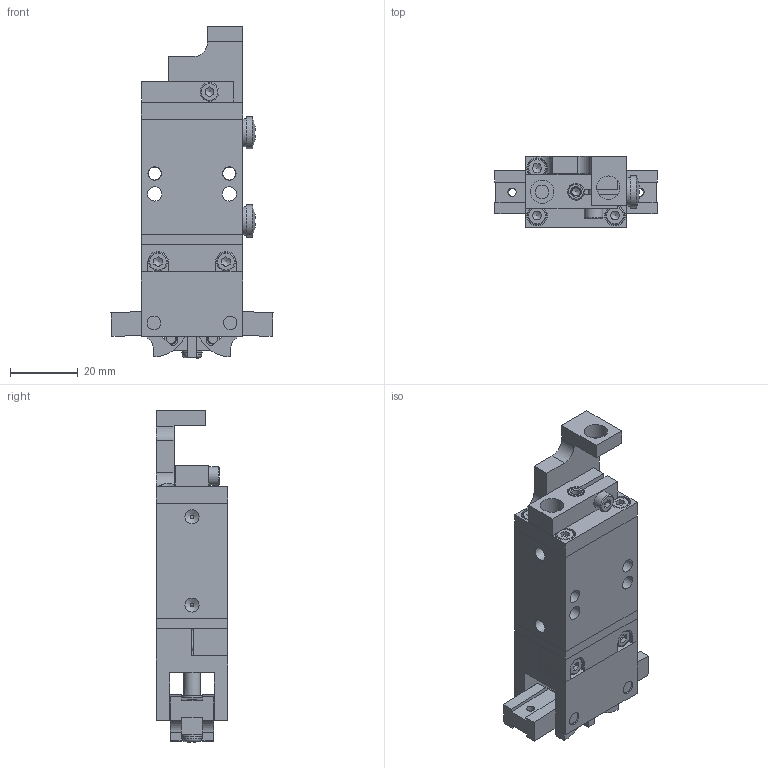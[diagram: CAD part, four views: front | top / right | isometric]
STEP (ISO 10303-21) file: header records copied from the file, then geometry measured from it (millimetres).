
FILE_DESCRIPTION((''),'2;1');
FILE_NAME('C:\Test\stp\3000004-2.stp','2006-04-11T12:58:36',('is'),(''),'Autodesk Inventor 10','Autodesk Inventor 10','');
FILE_SCHEMA(('AUTOMOTIVE_DESIGN { 1 0 10303 214 1 1 1 1 }'));
Length unit declared in the file: millimetre
Products named in the file (4): 3000004-2; 3000007-a; 3000007-b; 3000006-2
Assembly tree (3 placements, depth 2):
  3000004-2
    3000007-a
    3000007-b
    3000006-2
Bounding box: 47.78 x 21 x 97.87 mm (x, y, z)
Volume: 41943.1 mm3; surface area: 25475 mm2
Topology: 3 solids, 21 shells, 558 faces, 1368 edges, 881 vertices
Faces by surface type: plane 302, bspline 110, cylinder 81, cone 46, torus 17, sphere 2
Full cylindrical faces by diameter (mm): 2.95 x1, 3 x13, 4 x1, 5 x6, 5.2 x1, 5.5 x6, 5.7 x1, 6 x4, 7 x4, 7.1 x2, 8.3 x2, 8.75 x2, 9 x1, 9.5 x2, 9.6 x2, 12 x4, 15 x3, 17.6 x1
Entity records: 22832 total; most frequent: CARTESIAN_POINT 11121, DIRECTION 2336, ORIENTED_EDGE 2154, EDGE_CURVE 1077, AXIS2_PLACEMENT_3D 880, EDGE_LOOP 867, VERTEX_POINT 788, VECTOR 576
